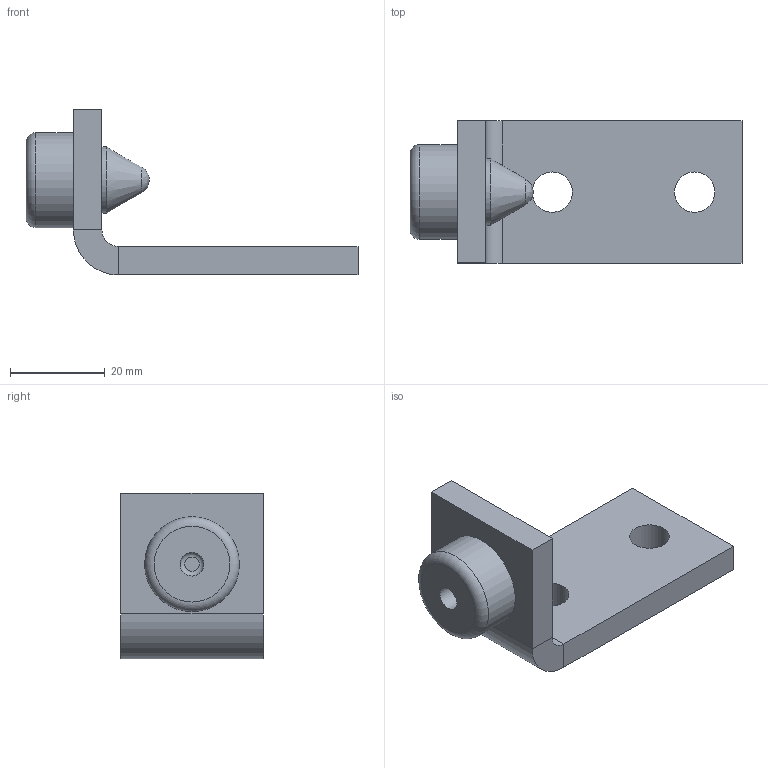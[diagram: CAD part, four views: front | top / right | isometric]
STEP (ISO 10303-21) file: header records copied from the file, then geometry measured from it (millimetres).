
FILE_DESCRIPTION(/* description */ ('Biegeteil mit Löchern'),/* implementation_level */ '2;1');
FILE_NAME(/* name */ 'Q:\sge-ma\Produktmanagement-STB\STB\Workspace\TraceParts\Winkelpuffer\010336020.stp',/* time_stamp */ '2018-03-05T07:45:18+01:00',/* author */ ('avschreier'),/* organization */ (''),/* preprocessor_version */ 'ST-DEVELOPER v16.1',/* originating_system */ 'Autodesk Inventor 2016',/* authorisation */ '');
FILE_SCHEMA (('CONFIG_CONTROL_DESIGN'));
Length unit declared in the file: millimetre
Products named in the file (3): 337000241; 004203040; 010336020
Assembly tree (2 placements, depth 2):
  010336020
    337000241
    004203040
Bounding box: 70 x 30 x 35 mm (x, y, z)
Volume: 18290.8 mm3; surface area: 8639.2 mm2
Topology: 2 solids, 2 shells, 31 faces, 61 edges, 37 vertices
Faces by surface type: plane 17, cylinder 9, torus 3, cone 1, bspline 1
Full cylindrical faces by diameter (mm): 5 x1, 8.5 x2, 11 x1, 11.5 x1, 14 x1, 20 x1
Entity records: 842 total; most frequent: CARTESIAN_POINT 151, DIRECTION 144, ORIENTED_EDGE 100, AXIS2_PLACEMENT_3D 60, EDGE_LOOP 51, EDGE_CURVE 50, VERTEX_POINT 37, FACE_OUTER_BOUND 31
